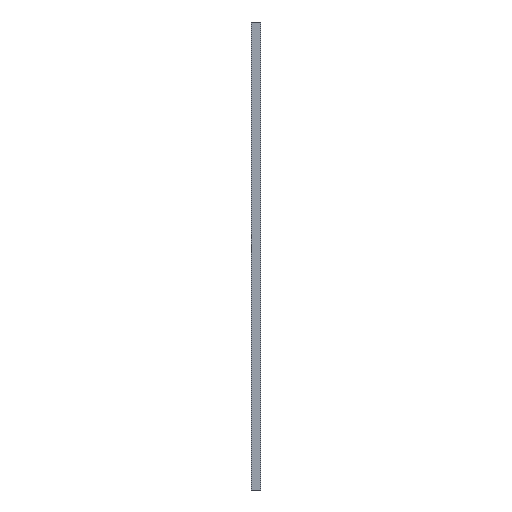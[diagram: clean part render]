
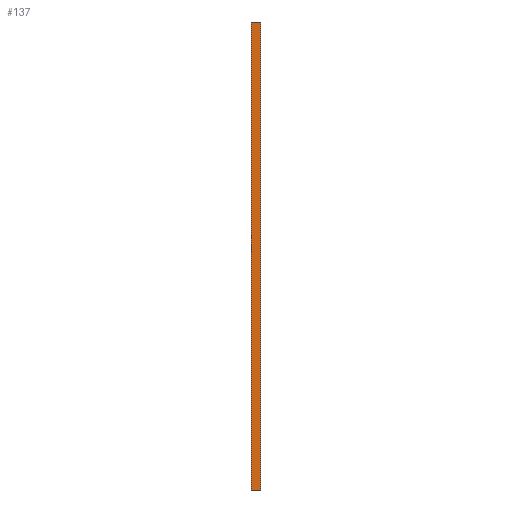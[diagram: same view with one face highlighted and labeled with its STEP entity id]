
A CAD part, front view. The second image highlights one B-rep face of the part: STEP entity #137.
In plain terms, the highlighted planar face has unit normal (0, -1, 0).
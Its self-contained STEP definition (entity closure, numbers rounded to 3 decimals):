
#21 = EDGE_CURVE('',#22,#24,#26,.T.);
#22 = VERTEX_POINT('',#23);
#23 = CARTESIAN_POINT('',(854.,-170.,-145.));
#24 = VERTEX_POINT('',#25);
#25 = CARTESIAN_POINT('',(860.,-170.,-145.));
#26 = SURFACE_CURVE('',#27,(#31,#43),.PCURVE_S1.);
#27 = LINE('',#28,#29);
#28 = CARTESIAN_POINT('',(854.,-170.,-145.));
#29 = VECTOR('',#30,1.);
#30 = DIRECTION('',(1.,0.,0.));
#31 = PCURVE('',#32,#37);
#32 = PLANE('',#33);
#33 = AXIS2_PLACEMENT_3D('',#34,#35,#36);
#34 = CARTESIAN_POINT('',(854.,-170.,-145.));
#35 = DIRECTION('',(0.,0.,1.));
#36 = DIRECTION('',(0.,1.,0.));
#37 = DEFINITIONAL_REPRESENTATION('',(#38),#42);
#38 = LINE('',#39,#40);
#39 = CARTESIAN_POINT('',(0.,0.));
#40 = VECTOR('',#41,1.);
#41 = DIRECTION('',(0.,-1.));
#42 = ( GEOMETRIC_REPRESENTATION_CONTEXT(2) 
PARAMETRIC_REPRESENTATION_CONTEXT() REPRESENTATION_CONTEXT('2D SPACE',''
  ) );
#43 = PCURVE('',#44,#49);
#44 = PLANE('',#45);
#45 = AXIS2_PLACEMENT_3D('',#46,#47,#48);
#46 = CARTESIAN_POINT('',(854.,-170.,145.));
#47 = DIRECTION('',(-0.,1.,0.));
#48 = DIRECTION('',(0.,0.,-1.));
#49 = DEFINITIONAL_REPRESENTATION('',(#50),#54);
#50 = LINE('',#51,#52);
#51 = CARTESIAN_POINT('',(290.,0.));
#52 = VECTOR('',#53,1.);
#53 = DIRECTION('',(0.,-1.));
#54 = ( GEOMETRIC_REPRESENTATION_CONTEXT(2) 
PARAMETRIC_REPRESENTATION_CONTEXT() REPRESENTATION_CONTEXT('2D SPACE',''
  ) );
#72 = PLANE('',#73);
#73 = AXIS2_PLACEMENT_3D('',#74,#75,#76);
#74 = CARTESIAN_POINT('',(860.,0.,0.));
#75 = DIRECTION('',(1.,0.,0.));
#76 = DIRECTION('',(-0.,0.,1.));
#126 = PLANE('',#127);
#127 = AXIS2_PLACEMENT_3D('',#128,#129,#130);
#128 = CARTESIAN_POINT('',(854.,0.,0.));
#129 = DIRECTION('',(1.,0.,0.));
#130 = DIRECTION('',(-0.,0.,1.));
#137 = ADVANCED_FACE('',(#138),#44,.F.);
#138 = FACE_BOUND('',#139,.F.);
#139 = EDGE_LOOP('',(#140,#170,#191,#192));
#140 = ORIENTED_EDGE('',*,*,#141,.T.);
#141 = EDGE_CURVE('',#142,#144,#146,.T.);
#142 = VERTEX_POINT('',#143);
#143 = CARTESIAN_POINT('',(854.,-170.,145.));
#144 = VERTEX_POINT('',#145);
#145 = CARTESIAN_POINT('',(860.,-170.,145.));
#146 = SURFACE_CURVE('',#147,(#151,#158),.PCURVE_S1.);
#147 = LINE('',#148,#149);
#148 = CARTESIAN_POINT('',(854.,-170.,145.));
#149 = VECTOR('',#150,1.);
#150 = DIRECTION('',(1.,0.,0.));
#151 = PCURVE('',#44,#152);
#152 = DEFINITIONAL_REPRESENTATION('',(#153),#157);
#153 = LINE('',#154,#155);
#154 = CARTESIAN_POINT('',(0.,0.));
#155 = VECTOR('',#156,1.);
#156 = DIRECTION('',(0.,-1.));
#157 = ( GEOMETRIC_REPRESENTATION_CONTEXT(2) 
PARAMETRIC_REPRESENTATION_CONTEXT() REPRESENTATION_CONTEXT('2D SPACE',''
  ) );
#158 = PCURVE('',#159,#164);
#159 = PLANE('',#160);
#160 = AXIS2_PLACEMENT_3D('',#161,#162,#163);
#161 = CARTESIAN_POINT('',(854.,170.,145.));
#162 = DIRECTION('',(0.,0.,-1.));
#163 = DIRECTION('',(0.,-1.,0.));
#164 = DEFINITIONAL_REPRESENTATION('',(#165),#169);
#165 = LINE('',#166,#167);
#166 = CARTESIAN_POINT('',(340.,0.));
#167 = VECTOR('',#168,1.);
#168 = DIRECTION('',(0.,-1.));
#169 = ( GEOMETRIC_REPRESENTATION_CONTEXT(2) 
PARAMETRIC_REPRESENTATION_CONTEXT() REPRESENTATION_CONTEXT('2D SPACE',''
  ) );
#170 = ORIENTED_EDGE('',*,*,#171,.T.);
#171 = EDGE_CURVE('',#144,#24,#172,.T.);
#172 = SURFACE_CURVE('',#173,(#177,#184),.PCURVE_S1.);
#173 = LINE('',#174,#175);
#174 = CARTESIAN_POINT('',(860.,-170.,145.));
#175 = VECTOR('',#176,1.);
#176 = DIRECTION('',(0.,0.,-1.));
#177 = PCURVE('',#44,#178);
#178 = DEFINITIONAL_REPRESENTATION('',(#179),#183);
#179 = LINE('',#180,#181);
#180 = CARTESIAN_POINT('',(0.,-6.));
#181 = VECTOR('',#182,1.);
#182 = DIRECTION('',(1.,0.));
#183 = ( GEOMETRIC_REPRESENTATION_CONTEXT(2) 
PARAMETRIC_REPRESENTATION_CONTEXT() REPRESENTATION_CONTEXT('2D SPACE',''
  ) );
#184 = PCURVE('',#72,#185);
#185 = DEFINITIONAL_REPRESENTATION('',(#186),#190);
#186 = LINE('',#187,#188);
#187 = CARTESIAN_POINT('',(145.,170.));
#188 = VECTOR('',#189,1.);
#189 = DIRECTION('',(-1.,0.));
#190 = ( GEOMETRIC_REPRESENTATION_CONTEXT(2) 
PARAMETRIC_REPRESENTATION_CONTEXT() REPRESENTATION_CONTEXT('2D SPACE',''
  ) );
#191 = ORIENTED_EDGE('',*,*,#21,.F.);
#192 = ORIENTED_EDGE('',*,*,#193,.F.);
#193 = EDGE_CURVE('',#142,#22,#194,.T.);
#194 = SURFACE_CURVE('',#195,(#199,#206),.PCURVE_S1.);
#195 = LINE('',#196,#197);
#196 = CARTESIAN_POINT('',(854.,-170.,145.));
#197 = VECTOR('',#198,1.);
#198 = DIRECTION('',(0.,0.,-1.));
#199 = PCURVE('',#44,#200);
#200 = DEFINITIONAL_REPRESENTATION('',(#201),#205);
#201 = LINE('',#202,#203);
#202 = CARTESIAN_POINT('',(0.,0.));
#203 = VECTOR('',#204,1.);
#204 = DIRECTION('',(1.,0.));
#205 = ( GEOMETRIC_REPRESENTATION_CONTEXT(2) 
PARAMETRIC_REPRESENTATION_CONTEXT() REPRESENTATION_CONTEXT('2D SPACE',''
  ) );
#206 = PCURVE('',#126,#207);
#207 = DEFINITIONAL_REPRESENTATION('',(#208),#212);
#208 = LINE('',#209,#210);
#209 = CARTESIAN_POINT('',(145.,170.));
#210 = VECTOR('',#211,1.);
#211 = DIRECTION('',(-1.,0.));
#212 = ( GEOMETRIC_REPRESENTATION_CONTEXT(2) 
PARAMETRIC_REPRESENTATION_CONTEXT() REPRESENTATION_CONTEXT('2D SPACE',''
  ) );
